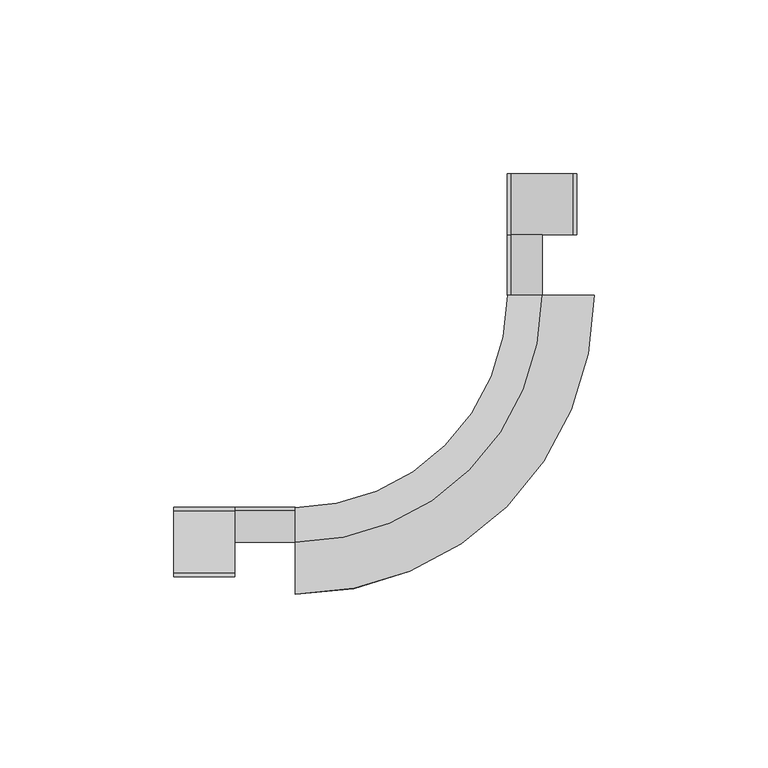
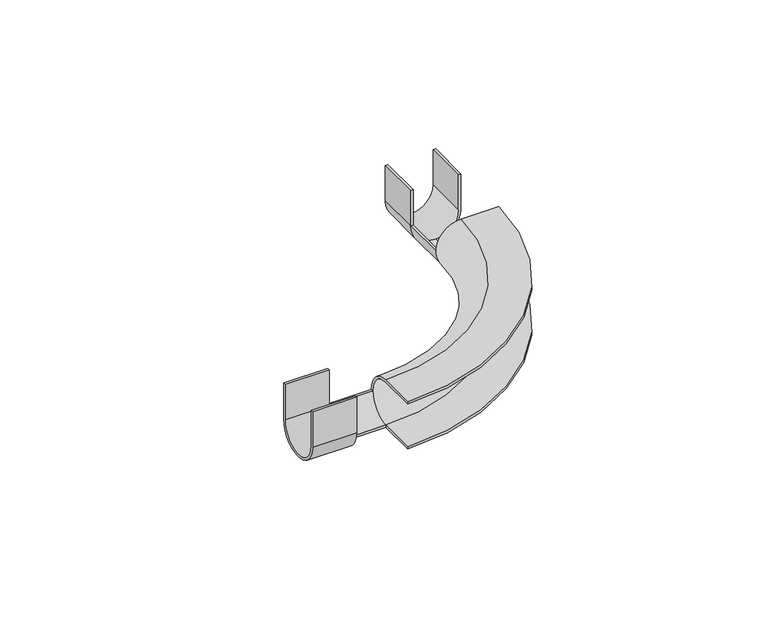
"""IFC4 building model written with IfcOpenShell, lengths in millimetres: pipe fitting geometry, USYSTEMS_УгловойФиксатор_Multi : Угловой фиксатор."""

from ifc_helpers import new_model, si_unit, point, frame, origin, place, context, project, spatial, polyline, circle_curve, ellipse_curve, trimmed, source, transform, mapped, element, save
from ifc_brep_helpers import plane_surface, cylinder_surface, revolved_surface, advanced_brep


def pipe_fitting_b05a7e06(model_context):
    return source(origin(), model_context, "Body", "AdvancedBrep", [
        advanced_brep(
        [(-106.0, 10.0, 0.0), (-106.0, -10.0, 0.0), (-106.0, -10.0, 15.0), (-106.0, -9.0, 15.0), (-106.0, -9.0, 0.0), (-106.0, 9.0, 0.0), (-106.0, 9.0, 15.0), (-106.0, 10.0, 15.0), (-88.5, 10.0, 0.0), (-88.5, 10.0, 15.0), (-88.5, 9.0, 15.0), (-88.5, 9.0, 0.0), (-88.5, -9.0, 0.0), (-88.5, -9.0, 15.0), (-88.5, -10.0, 15.0), (-88.5, -10.0, 0.0), (-88.5, 0.0, -10.0), (-88.5, 0.0, -9.0), (-71.0, 10.0, 0.0), (-71.0, 0.0, -10.0), (-71.0, 0.0, -9.0), (-71.0, 9.0, 0.0), (-71.0, 0.0, 9.0), (-71.0, -15.0, 9.0), (-71.0, -15.0, 10.0), (-71.0, 0.0, 10.0), (-71.0, -15.0, -10.0), (-71.0, -15.0, -9.0), (0.0, 71.0, -9.0), (15.0, 71.0, -9.0), (15.0, 71.0, -10.0), (0.0, 71.0, -10.0), (0.0, 71.0, 10.0), (15.0, 71.0, 10.0), (15.0, 71.0, 9.0), (0.0, 71.0, 9.0), (-9.0, 71.0, 0.0), (-10.0, 71.0, 0.0), (0.0, 88.5, -9.0), (0.0, 88.5, -10.0), (-10.0, 88.5, 0.0), (-9.0, 88.5, 0.0), (-10.0, 106.0, 0.0), (-10.0, 106.0, 15.0), (-9.0, 106.0, 15.0), (-9.0, 106.0, 0.0), (9.0, 106.0, 0.0), (9.0, 106.0, 15.0), (10.0, 106.0, 15.0), (10.0, 106.0, 0.0), (9.0, 88.5, 0.0), (10.0, 88.5, 0.0), (10.0, 88.5, 15.0), (9.0, 88.5, 15.0), (-9.0, 88.5, 15.0), (-10.0, 88.5, 15.0)],
        [
            (0, 1, circle_curve(frame((-106.0, 0.0, 0.0), z_axis=(-1.0, 0.0, 0.0), x_axis=(0.0, 1.0, 0.0)), 10.0)),
            (1, 2),
            (2, 3),
            (3, 4),
            (4, 5, circle_curve(frame((-106.0, 0.0, 0.0), z_axis=(1.0, 0.0, 0.0), x_axis=(0.0, 1.0, 0.0)), 9.0)),
            (5, 6),
            (6, 7),
            (7, 0),
            (8, 9),
            (9, 10),
            (10, 11),
            (11, 8),
            (12, 13),
            (13, 14),
            (14, 15),
            (15, 16, circle_curve(frame((-88.5, 0.0, 0.0), z_axis=(1.0, 0.0, 0.0), x_axis=(0.0, 1.0, 0.0)), 10.0)),
            (16, 17),
            (17, 12, circle_curve(frame((-88.5, 0.0, 0.0), z_axis=(-1.0, 0.0, 0.0), x_axis=(0.0, 1.0, 0.0)), 9.0)),
            (0, 8),
            (8, 16, circle_curve(frame((-88.5, 0.0, 0.0), z_axis=(-1.0, 0.0, 0.0), x_axis=(0.0, 1.0, 0.0)), 10.0)),
            (15, 1),
            (4, 12),
            (17, 11, circle_curve(frame((-88.5, 0.0, 0.0), z_axis=(1.0, 0.0, 0.0), x_axis=(0.0, 1.0, 0.0)), 9.0)),
            (11, 5),
            (14, 2),
            (13, 3),
            (10, 6),
            (9, 7),
            (8, 18),
            (18, 19, circle_curve(frame((-71.0, 0.0, 0.0), z_axis=(-1.0, 0.0, 0.0), x_axis=(0.0, 1.0, 0.0)), 10.0)),
            (19, 16),
            (19, 20),
            (20, 17),
            (20, 21, circle_curve(frame((-71.0, 0.0, 0.0), z_axis=(1.0, 0.0, 0.0), x_axis=(0.0, 1.0, 0.0)), 9.0)),
            (21, 11),
            (21, 18),
            (22, 23),
            (23, 24),
            (24, 25),
            (25, 18, circle_curve(frame((-71.0, 0.0, 0.0), z_axis=(-1.0, 0.0, 0.0), x_axis=(0.0, 1.0, 0.0)), 10.0)),
            (21, 22, circle_curve(frame((-71.0, 0.0, 0.0), z_axis=(1.0, 0.0, 0.0), x_axis=(0.0, 1.0, 0.0)), 9.0)),
            (19, 26),
            (26, 27),
            (27, 20),
            (28, 29),
            (29, 30),
            (30, 31),
            (31, 28),
            (32, 33),
            (33, 34),
            (34, 35),
            (35, 36, circle_curve(frame((0.0, 71.0, 0.0), z_axis=(0.0, -1.0, 0.0), x_axis=(-1.0, 0.0, 0.0)), 9.0)),
            (36, 37),
            (37, 32, circle_curve(frame((0.0, 71.0, 0.0), z_axis=(0.0, 1.0, 0.0), x_axis=(-1.0, 0.0, 0.0)), 10.0)),
            (22, 35, circle_curve(frame((-71.0, 71.0, 9.0), z_axis=(0.0, 0.0, 1.0), x_axis=(0.0, -1.0, 0.0)), 71.0)),
            (34, 23, circle_curve(frame((-71.0, 71.0, 9.0), z_axis=(0.0, 0.0, -1.0), x_axis=(0.0, -1.0, 0.0)), 86.0)),
            (33, 24, circle_curve(frame((-71.0, 71.0, 10.0), z_axis=(0.0, 0.0, -1.0), x_axis=(0.0, -1.0, 0.0)), 86.0)),
            (32, 25, circle_curve(frame((-71.0, 71.0, 10.0), z_axis=(0.0, 0.0, -1.0), x_axis=(0.0, -1.0, 0.0)), 71.0)),
            (37, 31, circle_curve(frame((0.0, 71.0, 0.0), z_axis=(0.0, -1.0, 0.0), x_axis=(-1.0, 0.0, 0.0)), 10.0)),
            (31, 19, circle_curve(frame((-71.0, 71.0, -10.0), z_axis=(0.0, 0.0, -1.0), x_axis=(0.0, -1.0, 0.0)), 71.0)),
            (30, 26, circle_curve(frame((-71.0, 71.0, -10.0), z_axis=(0.0, 0.0, -1.0), x_axis=(0.0, -1.0, 0.0)), 86.0)),
            (29, 27, circle_curve(frame((-71.0, 71.0, -9.0), z_axis=(0.0, 0.0, -1.0), x_axis=(0.0, -1.0, 0.0)), 86.0)),
            (28, 20, circle_curve(frame((-71.0, 71.0, -9.0), z_axis=(0.0, 0.0, -1.0), x_axis=(0.0, -1.0, 0.0)), 71.0)),
            (28, 36, circle_curve(frame((0.0, 71.0, 0.0), z_axis=(0.0, 1.0, 0.0), x_axis=(-1.0, 0.0, 0.0)), 9.0)),
            (38, 28),
            (31, 39),
            (39, 38),
            (37, 40),
            (40, 39, circle_curve(frame((0.0, 88.5, 0.0), z_axis=(0.0, -1.0, 0.0), x_axis=(1.0, 0.0, 0.0)), 10.0)),
            (36, 41),
            (41, 40),
            (38, 41, circle_curve(frame((0.0, 88.5, 0.0), z_axis=(0.0, 1.0, 0.0), x_axis=(1.0, 0.0, 0.0)), 9.0)),
            (42, 43),
            (43, 44),
            (44, 45),
            (45, 46, circle_curve(frame((0.0, 106.0, 0.0), z_axis=(0.0, -1.0, 0.0), x_axis=(1.0, 0.0, 0.0)), 9.0)),
            (46, 47),
            (47, 48),
            (48, 49),
            (49, 42, circle_curve(frame((0.0, 106.0, 0.0), z_axis=(0.0, 1.0, 0.0), x_axis=(1.0, 0.0, 0.0)), 10.0)),
            (45, 41),
            (38, 50, circle_curve(frame((0.0, 88.5, 0.0), z_axis=(0.0, -1.0, 0.0), x_axis=(1.0, 0.0, 0.0)), 9.0)),
            (50, 46),
            (49, 51),
            (51, 39, circle_curve(frame((0.0, 88.5, 0.0), z_axis=(0.0, 1.0, 0.0), x_axis=(1.0, 0.0, 0.0)), 10.0)),
            (40, 42),
            (51, 52),
            (52, 53),
            (53, 50),
            (41, 54),
            (54, 55),
            (55, 40),
            (55, 43),
            (54, 44),
            (53, 47),
            (52, 48),
        ],
        [
            plane_surface(frame((-106.0, 0.0, 0.0), z_axis=(-1.0, 0.0, 0.0), x_axis=(0.0, 0.0, 1.0))),
            plane_surface(frame((-88.5, 0.0, 0.0), z_axis=(1.0, 0.0, 0.0), x_axis=(0.0, 0.0, 1.0))),
            cylinder_surface(frame((-106.0, 0.0, 0.0), z_axis=(-1.0, 0.0, 0.0), x_axis=(0.0, 1.0, 0.0)), 10.0),
            revolved_surface(polyline([(-88.5, 9.0, 0.0), (-106.0, 9.0, 0.0)]), (-106.0, 0.0, 0.0), (1.0, 0.0, 0.0)),
            plane_surface(frame((-106.0, -10.0, 0.0), z_axis=(0.0, -1.0, 0.0), x_axis=(1.0, 0.0, 0.0))),
            plane_surface(frame((-106.0, -10.0, 15.0), z_axis=(0.0, 0.0, 1.0), x_axis=(1.0, 0.0, 0.0))),
            plane_surface(frame((-106.0, -9.0, 15.0), z_axis=(0.0, 1.0, 0.0), x_axis=(1.0, 0.0, 0.0))),
            plane_surface(frame((-106.0, 9.0, 0.0), z_axis=(0.0, -1.0, 0.0), x_axis=(1.0, 0.0, 0.0))),
            plane_surface(frame((-106.0, 9.0, 15.0), z_axis=(0.0, 0.0, 1.0), x_axis=(1.0, 0.0, 0.0))),
            plane_surface(frame((-106.0, 10.0, 15.0), z_axis=(0.0, 1.0, 0.0), x_axis=(1.0, 0.0, 0.0))),
            cylinder_surface(frame((-88.5, 0.0, 0.0), z_axis=(-1.0, 0.0, 0.0), x_axis=(0.0, 1.0, 0.0)), 10.0),
            plane_surface(frame((-88.5, 0.0, -10.0), z_axis=(0.0, -1.0, 0.0), x_axis=(1.0, 0.0, 0.0))),
            revolved_surface(polyline([(-71.0, 9.0, 0.0), (-88.5, 9.0, 0.0)]), (-88.5, 0.0, 0.0), (1.0, 0.0, 0.0)),
            plane_surface(frame((-88.5, 9.0, 0.0), z_axis=(0.0, 0.0, 1.0), x_axis=(1.0, 0.0, 0.0))),
            plane_surface(frame((-71.0, 0.0, 0.0), z_axis=(-1.0, 0.0, 0.0), x_axis=(0.0, 0.0, 1.0))),
            plane_surface(frame((0.0, 71.0, 0.0), z_axis=(0.0, 1.0, 0.0), x_axis=(0.0, 0.0, 1.0))),
            plane_surface(frame((-71.0, 71.0, 9.0), z_axis=(0.0, 0.0, -1.0), x_axis=(0.0, -1.0, 0.0))),
            cylinder_surface(frame((-71.0, 71.0, 0.0), z_axis=(0.0, 0.0, 1.0), x_axis=(0.0, -1.0, 0.0)), 86.0),
            plane_surface(frame((-71.0, 71.0, 10.0), z_axis=(0.0, 0.0, 1.0), x_axis=(0.0, -1.0, 0.0))),
            revolved_surface(trimmed(ellipse_curve(frame((-71.0, 0.0, 0.0), z_axis=(-1.0, 0.0, 0.0), x_axis=(0.0, 1.0, 0.0)), 10.0, 10.0), [point((-71.0, 0.0, 10.0))], [point((-71.0, 0.0, -10.0))], True, "CARTESIAN"), (-71.0, 71.0, 0.0), (0.0, 0.0, 1.0)),
            plane_surface(frame((-71.0, 71.0, -10.0), z_axis=(0.0, 0.0, -1.0), x_axis=(0.0, -1.0, 0.0))),
            plane_surface(frame((-71.0, 71.0, -9.0), z_axis=(0.0, 0.0, 1.0), x_axis=(0.0, -1.0, 0.0))),
            revolved_surface(trimmed(ellipse_curve(frame((-71.0, 0.0, 0.0), z_axis=(1.0, 0.0, 0.0), x_axis=(0.0, 1.0, 0.0)), 9.0, 9.0), [point((-71.0, 0.0, -9.0))], [point((-71.0, 0.0, 9.0))], True, "CARTESIAN"), (-71.0, 71.0, 0.0), (0.0, 0.0, 1.0)),
            plane_surface(frame((0.0, 88.5, -9.0), z_axis=(1.0, 0.0, 0.0), x_axis=(0.0, -1.0, 0.0))),
            cylinder_surface(frame((0.0, 88.5, 0.0), z_axis=(0.0, 1.0, 0.0), x_axis=(1.0, 0.0, 0.0)), 10.0),
            plane_surface(frame((-10.0, 88.5, 0.0), z_axis=(0.0, 0.0, 1.0), x_axis=(0.0, -1.0, 0.0))),
            revolved_surface(polyline([(9.0, 71.0, 0.0), (9.0, 88.5, 0.0)]), (0.0, 88.5, 0.0), (0.0, -1.0, 0.0)),
            plane_surface(frame((0.0, 106.0, 0.0), z_axis=(0.0, 1.0, 0.0), x_axis=(0.0, 0.0, 1.0))),
            revolved_surface(polyline([(9.0, 88.5, 0.0), (9.0, 106.0, 0.0)]), (0.0, 106.0, 0.0), (0.0, -1.0, 0.0)),
            cylinder_surface(frame((0.0, 106.0, 0.0), z_axis=(0.0, 1.0, 0.0), x_axis=(1.0, 0.0, 0.0)), 10.0),
            plane_surface(frame((0.0, 88.5, 0.0), z_axis=(0.0, -1.0, 0.0), x_axis=(0.0, 0.0, 1.0))),
            plane_surface(frame((-10.0, 106.0, 0.0), z_axis=(-1.0, 0.0, 0.0), x_axis=(0.0, -1.0, 0.0))),
            plane_surface(frame((-10.0, 106.0, 15.0), z_axis=(0.0, 0.0, 1.0), x_axis=(0.0, -1.0, 0.0))),
            plane_surface(frame((-9.0, 106.0, 15.0), z_axis=(1.0, 0.0, 0.0), x_axis=(0.0, -1.0, 0.0))),
            plane_surface(frame((9.0, 106.0, 0.0), z_axis=(-1.0, 0.0, 0.0), x_axis=(0.0, -1.0, 0.0))),
            plane_surface(frame((9.0, 106.0, 15.0), z_axis=(0.0, 0.0, 1.0), x_axis=(0.0, -1.0, 0.0))),
            plane_surface(frame((10.0, 106.0, 15.0), z_axis=(1.0, 0.0, 0.0), x_axis=(0.0, -1.0, 0.0))),
        ],
        [
            (0, [[1, 2, 3, 4, 5, 6, 7, 8]]),
            (1, [[9, 10, 11, 12]]),
            (1, [[13, 14, 15, 16, 17, 18]]),
            (2, [[-1, 19, 20, -16, 21]]),
            (3, [[-5, 22, -18, 23, 24]]),
            (4, [[-2, -21, -15, 25]]),
            (5, [[-3, -25, -14, 26]]),
            (6, [[-4, -26, -13, -22]]),
            (7, [[-6, -24, -11, 27]]),
            (8, [[-7, -27, -10, 28]]),
            (9, [[-8, -28, -9, -19]]),
            (10, [[29, 30, 31, -20]]),
            (11, [[-31, 32, 33, -17]]),
            (12, [[-33, 34, 35, -23]]),
            (13, [[-29, -12, -35, 36]]),
            (14, [[37, 38, 39, 40, -36, 41]]),
            (14, [[42, 43, 44, -32]]),
            (15, [[45, 46, 47, 48]]),
            (15, [[49, 50, 51, 52, 53, 54]]),
            (16, [[-37, 55, -51, 56]]),
            (17, [[-38, -56, -50, 57]]),
            (18, [[-39, -57, -49, 58]]),
            (19, [[-58, -54, 59, 60, -30, -40]]),
            (20, [[-42, -60, -47, 61]]),
            (17, [[-43, -61, -46, 62]]),
            (21, [[-44, -62, -45, 63]]),
            (22, [[-55, -41, -34, -63, 64, -52]]),
            (23, [[65, -48, 66, 67]]),
            (24, [[-66, -59, 68, 69]]),
            (25, [[-68, -53, 70, 71]]),
            (26, [[-65, 72, -70, -64]]),
            (27, [[73, 74, 75, 76, 77, 78, 79, 80]]),
            (28, [[-76, 81, -72, 82, 83]]),
            (29, [[-80, 84, 85, -69, 86]]),
            (30, [[87, 88, 89, -82, -67, -85]]),
            (30, [[90, 91, 92, -71]]),
            (31, [[-73, -86, -92, 93]]),
            (32, [[-74, -93, -91, 94]]),
            (33, [[-75, -94, -90, -81]]),
            (34, [[-77, -83, -89, 95]]),
            (35, [[-78, -95, -88, 96]]),
            (36, [[-79, -96, -87, -84]]),
        ],
    ),
    ])


if __name__ == "__main__":
    model = new_model("IFC4")
    model_context = context("Model", 3, world=origin())
    ifc_project = project(units=[si_unit("LENGTHUNIT", "METRE", prefix="MILLI")], contexts=[model_context])
    site = spatial("IfcSite", under=ifc_project)
    building = spatial("IfcBuilding", under=site)
    placement = place(None, origin())
    pipe_fitting_shape = pipe_fitting_b05a7e06(model_context)
    element("IfcPipeFitting", 1, ObjectType="USYSTEMS_УгловойФиксатор_Multi : Угловой фиксатор", at=placement, inside=building, context=model_context, shape_type="MappedRepresentation", body=[
        mapped(pipe_fitting_shape, transform((0.0, 0.0, 0.0), x_axis=(1.0, 0.0, 0.0), y_axis=(0.0, 1.0, 0.0), z_axis=(0.0, 0.0, 1.0))),
    ])
    save(model, "model.ifc")
